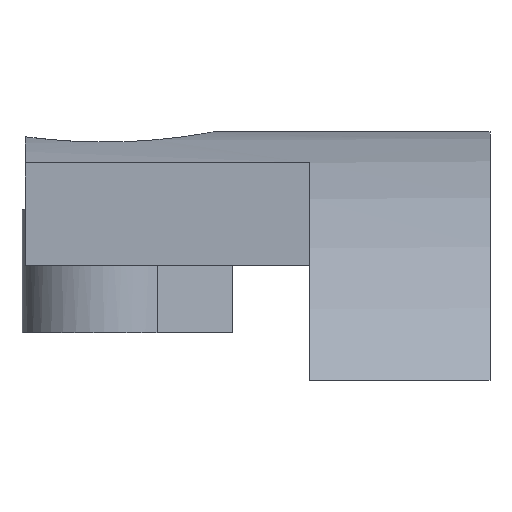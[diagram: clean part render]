
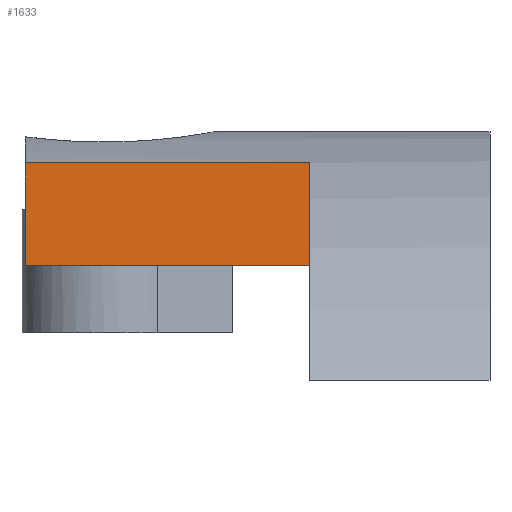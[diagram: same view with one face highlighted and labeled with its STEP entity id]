
A CAD part, front view. The second image highlights one B-rep face of the part: STEP entity #1633.
In plain terms, the highlighted planar face has unit normal (0, -1, 0).
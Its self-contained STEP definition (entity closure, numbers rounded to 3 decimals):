
#33 = CYLINDRICAL_SURFACE('',#34,18.85);
#34 = AXIS2_PLACEMENT_3D('',#35,#36,#37);
#35 = CARTESIAN_POINT('',(194.,0.,0.));
#36 = DIRECTION('',(1.,0.,0.));
#37 = DIRECTION('',(-0.,0.,1.));
#98 = PLANE('',#99);
#99 = AXIS2_PLACEMENT_3D('',#100,#101,#102);
#100 = CARTESIAN_POINT('',(185.,0.,0.));
#101 = DIRECTION('',(1.,0.,0.));
#102 = DIRECTION('',(-0.,0.,1.));
#438 = VERTEX_POINT('',#439);
#439 = CARTESIAN_POINT('',(185.,-6.,17.87));
#460 = EDGE_CURVE('',#438,#461,#463,.T.);
#461 = VERTEX_POINT('',#462);
#462 = CARTESIAN_POINT('',(194.,-6.,17.87));
#463 = SURFACE_CURVE('',#464,(#468,#474),.PCURVE_S1.);
#464 = LINE('',#465,#466);
#465 = CARTESIAN_POINT('',(185.,-6.,17.87));
#466 = VECTOR('',#467,1.);
#467 = DIRECTION('',(1.,0.,0.));
#468 = PCURVE('',#33,#469);
#469 = DEFINITIONAL_REPRESENTATION('',(#470),#473);
#470 = B_SPLINE_CURVE_WITH_KNOTS('',1,(#471,#472),.UNSPECIFIED.,.F.,.F.,
  (2,2),(0.,9.),.PIECEWISE_BEZIER_KNOTS.);
#471 = CARTESIAN_POINT('',(6.607,-9.));
#472 = CARTESIAN_POINT('',(6.607,0.));
#473 = ( GEOMETRIC_REPRESENTATION_CONTEXT(2) 
PARAMETRIC_REPRESENTATION_CONTEXT() REPRESENTATION_CONTEXT('2D SPACE',''
  ) );
#474 = PCURVE('',#475,#480);
#475 = PLANE('',#476);
#476 = AXIS2_PLACEMENT_3D('',#477,#478,#479);
#477 = CARTESIAN_POINT('',(185.,-6.,0.));
#478 = DIRECTION('',(-0.,1.,0.));
#479 = DIRECTION('',(0.,0.,1.));
#480 = DEFINITIONAL_REPRESENTATION('',(#481),#484);
#481 = B_SPLINE_CURVE_WITH_KNOTS('',1,(#482,#483),.UNSPECIFIED.,.F.,.F.,
  (2,2),(0.,9.),.PIECEWISE_BEZIER_KNOTS.);
#482 = CARTESIAN_POINT('',(17.87,0.));
#483 = CARTESIAN_POINT('',(17.87,9.));
#484 = ( GEOMETRIC_REPRESENTATION_CONTEXT(2) 
PARAMETRIC_REPRESENTATION_CONTEXT() REPRESENTATION_CONTEXT('2D SPACE',''
  ) );
#502 = PLANE('',#503);
#503 = AXIS2_PLACEMENT_3D('',#504,#505,#506);
#504 = CARTESIAN_POINT('',(194.,0.,0.));
#505 = DIRECTION('',(1.,0.,0.));
#506 = DIRECTION('',(-0.,0.,1.));
#638 = CYLINDRICAL_SURFACE('',#639,15.8);
#639 = AXIS2_PLACEMENT_3D('',#640,#641,#642);
#640 = CARTESIAN_POINT('',(193.,0.,0.));
#641 = DIRECTION('',(1.,0.,0.));
#642 = DIRECTION('',(-0.,0.,1.));
#998 = VERTEX_POINT('',#999);
#999 = CARTESIAN_POINT('',(185.,-6.,14.616));
#1020 = EDGE_CURVE('',#998,#1021,#1023,.T.);
#1021 = VERTEX_POINT('',#1022);
#1022 = CARTESIAN_POINT('',(194.,-6.,14.616));
#1023 = SURFACE_CURVE('',#1024,(#1028,#1034),.PCURVE_S1.);
#1024 = LINE('',#1025,#1026);
#1025 = CARTESIAN_POINT('',(184.,-6.,14.616));
#1026 = VECTOR('',#1027,1.);
#1027 = DIRECTION('',(1.,0.,0.));
#1028 = PCURVE('',#638,#1029);
#1029 = DEFINITIONAL_REPRESENTATION('',(#1030),#1033);
#1030 = B_SPLINE_CURVE_WITH_KNOTS('',1,(#1031,#1032),.UNSPECIFIED.,.F.,
  .F.,(2,2),(1.,10.),.PIECEWISE_BEZIER_KNOTS.);
#1031 = CARTESIAN_POINT('',(6.673,-8.));
#1032 = CARTESIAN_POINT('',(6.673,1.));
#1033 = ( GEOMETRIC_REPRESENTATION_CONTEXT(2) 
PARAMETRIC_REPRESENTATION_CONTEXT() REPRESENTATION_CONTEXT('2D SPACE',''
  ) );
#1034 = PCURVE('',#475,#1035);
#1035 = DEFINITIONAL_REPRESENTATION('',(#1036),#1039);
#1036 = B_SPLINE_CURVE_WITH_KNOTS('',1,(#1037,#1038),.UNSPECIFIED.,.F.,
  .F.,(2,2),(1.,10.),.PIECEWISE_BEZIER_KNOTS.);
#1037 = CARTESIAN_POINT('',(14.616,0.));
#1038 = CARTESIAN_POINT('',(14.616,9.));
#1039 = ( GEOMETRIC_REPRESENTATION_CONTEXT(2) 
PARAMETRIC_REPRESENTATION_CONTEXT() REPRESENTATION_CONTEXT('2D SPACE',''
  ) );
#1610 = EDGE_CURVE('',#1021,#461,#1611,.T.);
#1611 = SURFACE_CURVE('',#1612,(#1616,#1623),.PCURVE_S1.);
#1612 = LINE('',#1613,#1614);
#1613 = CARTESIAN_POINT('',(194.,-6.,0.));
#1614 = VECTOR('',#1615,1.);
#1615 = DIRECTION('',(0.,0.,1.));
#1616 = PCURVE('',#502,#1617);
#1617 = DEFINITIONAL_REPRESENTATION('',(#1618),#1622);
#1618 = LINE('',#1619,#1620);
#1619 = CARTESIAN_POINT('',(0.,6.));
#1620 = VECTOR('',#1621,1.);
#1621 = DIRECTION('',(1.,0.));
#1622 = ( GEOMETRIC_REPRESENTATION_CONTEXT(2) 
PARAMETRIC_REPRESENTATION_CONTEXT() REPRESENTATION_CONTEXT('2D SPACE',''
  ) );
#1623 = PCURVE('',#475,#1624);
#1624 = DEFINITIONAL_REPRESENTATION('',(#1625),#1629);
#1625 = LINE('',#1626,#1627);
#1626 = CARTESIAN_POINT('',(0.,9.));
#1627 = VECTOR('',#1628,1.);
#1628 = DIRECTION('',(1.,0.));
#1629 = ( GEOMETRIC_REPRESENTATION_CONTEXT(2) 
PARAMETRIC_REPRESENTATION_CONTEXT() REPRESENTATION_CONTEXT('2D SPACE',''
  ) );
#1633 = ADVANCED_FACE('',(#1634),#475,.F.);
#1634 = FACE_BOUND('',#1635,.F.);
#1635 = EDGE_LOOP('',(#1636,#1637,#1638,#1659));
#1636 = ORIENTED_EDGE('',*,*,#1610,.F.);
#1637 = ORIENTED_EDGE('',*,*,#1020,.F.);
#1638 = ORIENTED_EDGE('',*,*,#1639,.T.);
#1639 = EDGE_CURVE('',#998,#438,#1640,.T.);
#1640 = SURFACE_CURVE('',#1641,(#1645,#1652),.PCURVE_S1.);
#1641 = LINE('',#1642,#1643);
#1642 = CARTESIAN_POINT('',(185.,-6.,0.));
#1643 = VECTOR('',#1644,1.);
#1644 = DIRECTION('',(0.,0.,1.));
#1645 = PCURVE('',#475,#1646);
#1646 = DEFINITIONAL_REPRESENTATION('',(#1647),#1651);
#1647 = LINE('',#1648,#1649);
#1648 = CARTESIAN_POINT('',(0.,0.));
#1649 = VECTOR('',#1650,1.);
#1650 = DIRECTION('',(1.,0.));
#1651 = ( GEOMETRIC_REPRESENTATION_CONTEXT(2) 
PARAMETRIC_REPRESENTATION_CONTEXT() REPRESENTATION_CONTEXT('2D SPACE',''
  ) );
#1652 = PCURVE('',#98,#1653);
#1653 = DEFINITIONAL_REPRESENTATION('',(#1654),#1658);
#1654 = LINE('',#1655,#1656);
#1655 = CARTESIAN_POINT('',(0.,6.));
#1656 = VECTOR('',#1657,1.);
#1657 = DIRECTION('',(1.,0.));
#1658 = ( GEOMETRIC_REPRESENTATION_CONTEXT(2) 
PARAMETRIC_REPRESENTATION_CONTEXT() REPRESENTATION_CONTEXT('2D SPACE',''
  ) );
#1659 = ORIENTED_EDGE('',*,*,#460,.T.);
